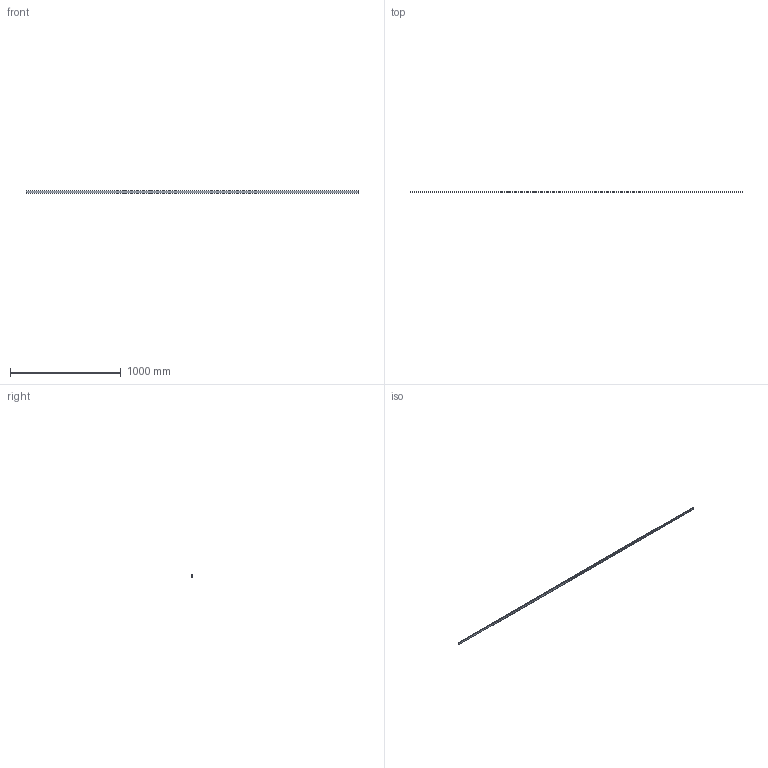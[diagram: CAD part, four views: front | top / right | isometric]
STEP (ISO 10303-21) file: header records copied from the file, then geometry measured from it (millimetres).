
FILE_DESCRIPTION(/* description */ ('LED - on board'),/* implementation_level */ '2;1');
FILE_NAME(/* name */ 'D:\$Workspace\Designs\Różne\Brły 3D Glaxów_robocze\stp\PA-GLAXNK3M-AL.stp',/* time_stamp */ '2017-08-21T10:18:16+02:00',/* author */ ('PiotrMz'),/* organization */ (''),/* preprocessor_version */ 'ST-DEVELOPER v16.1',/* originating_system */ 'Autodesk Inventor 2016',/* authorisation */ '');
FILE_SCHEMA (('AUTOMOTIVE_DESIGN { 1 0 10303 214 3 1 1 }'));
Length unit declared in the file: millimetre
Products named in the file (1): profil nakładany old_uproszczony
Bounding box: 3000 x 6.9 x 22 mm (x, y, z)
Volume: 206111.1 mm3; surface area: 238812.6 mm2
Topology: 1 solids, 1 shells, 30 faces, 84 edges, 56 vertices
Faces by surface type: plane 20, cylinder 10
Entity records: 992 total; most frequent: CARTESIAN_POINT 171, ORIENTED_EDGE 168, DIRECTION 166, EDGE_CURVE 84, LINE 64, VECTOR 64, VERTEX_POINT 56, AXIS2_PLACEMENT_3D 51
